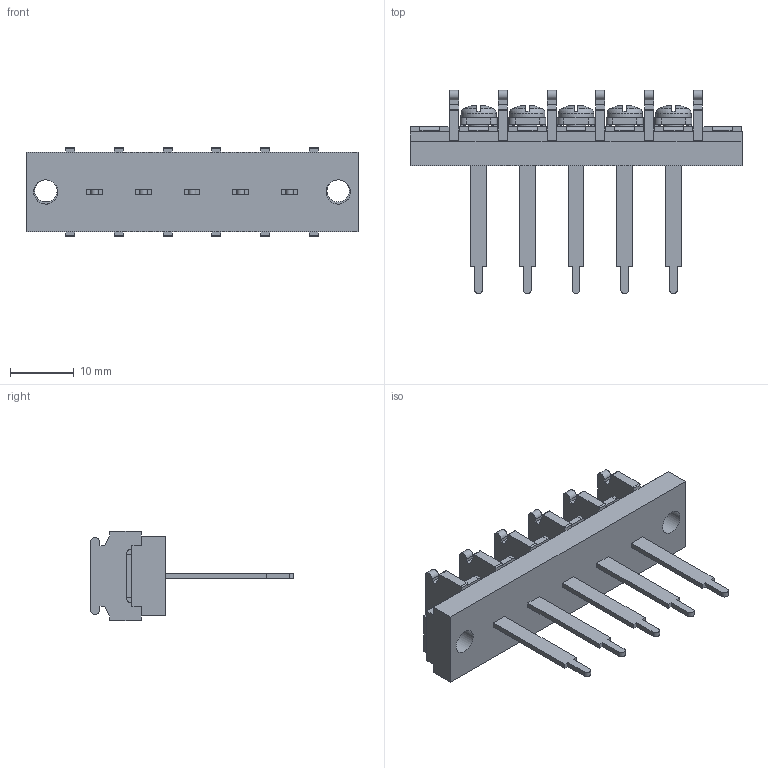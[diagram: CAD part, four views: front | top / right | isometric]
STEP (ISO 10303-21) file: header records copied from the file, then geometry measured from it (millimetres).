
FILE_DESCRIPTION(/* description */ ('Alibre Inc.'),/* implementation_level */ '2;1');
FILE_NAME(/* name */ 'export0',/* time_stamp */ '2015-10-26T16:27:04+09:00',/* author */ (''),/* organization */ (''),/* preprocessor_version */ 'ST-DEVELOPER v14',/* originating_system */ 'Alibre',/* authorisation */ '');
FILE_SCHEMA (('CONFIG_CONTROL_DESIGN'));
Length unit declared in the file: centimetre
Products named in the file (1): ID_1
Bounding box: 51.92 x 31.8 x 14 mm (x, y, z)
Volume: 4656 mm3; surface area: 4840.6 mm2
Topology: 1 solids, 17 shells, 1032 faces, 2790 edges, 1834 vertices
Faces by surface type: plane 799, bspline 104, cylinder 89, cone 20, torus 10, sphere 10
Full cylindrical faces by diameter (mm): 3 x5, 3.5 x2, 3.8 x2, 5.5 x5
Entity records: 30733 total; most frequent: CARTESIAN_POINT 6702, ORIENTED_EDGE 5504, DIRECTION 3719, EDGE_CURVE 2752, VECTOR 2052, LINE 2052, VERTEX_POINT 1820, AXIS2_PLACEMENT_3D 1202
